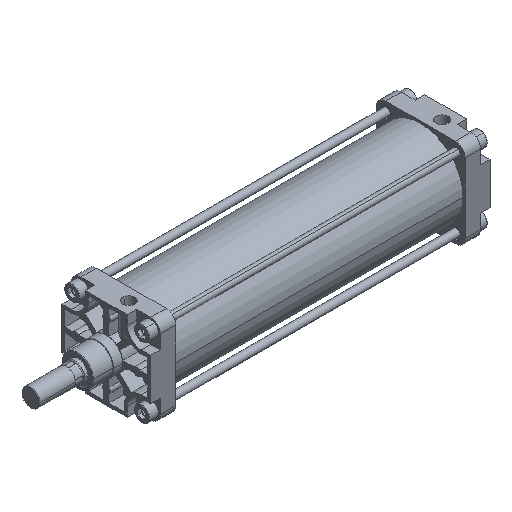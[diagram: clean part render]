
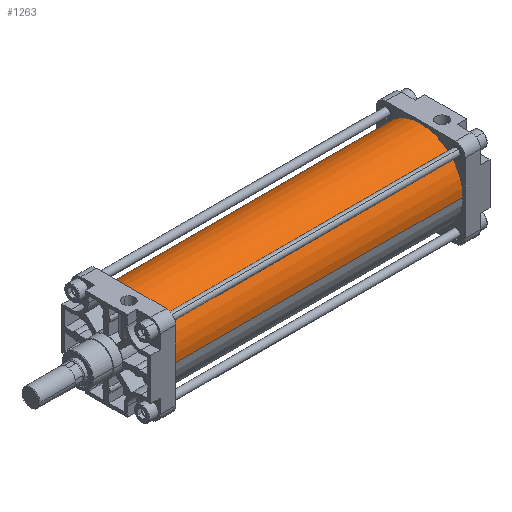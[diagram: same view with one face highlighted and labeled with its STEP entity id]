
A CAD part, isometric view. The second image highlights one B-rep face of the part: STEP entity #1263.
In plain terms, the highlighted cylindrical face has radius 85 mm (diameter 170 mm), a partial arc.
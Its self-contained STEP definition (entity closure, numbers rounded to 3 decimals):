
#853=CARTESIAN_POINT('Axis2P3D Location',(0.,0.,0.)) ;
#857=CARTESIAN_POINT('Vertex',(0.,85.,0.)) ;
#859=CARTESIAN_POINT('Vertex',(0.,-85.,0.)) ;
#1233=CARTESIAN_POINT('Axis2P3D Location',(290.,0.,0.)) ;
#1238=CARTESIAN_POINT('Line Origine',(290.,85.,0.)) ;
#1242=CARTESIAN_POINT('Vertex',(580.,85.,0.)) ;
#1245=CARTESIAN_POINT('Line Origine',(290.,-85.,0.)) ;
#1249=CARTESIAN_POINT('Vertex',(580.,-85.,0.)) ;
#1252=CARTESIAN_POINT('Axis2P3D Location',(580.,0.,0.)) ;
#854=DIRECTION('Axis2P3D Direction',(1.,0.,0.)) ;
#1234=DIRECTION('Axis2P3D Direction',(1.,0.,0.)) ;
#1235=DIRECTION('Axis2P3D XDirection',(0.,1.,0.)) ;
#1239=DIRECTION('Vector Direction',(1.,0.,0.)) ;
#1246=DIRECTION('Vector Direction',(1.,0.,0.)) ;
#1253=DIRECTION('Axis2P3D Direction',(1.,0.,0.)) ;
#855=AXIS2_PLACEMENT_3D('Circle Axis2P3D',#853,#854,$) ;
#1236=AXIS2_PLACEMENT_3D('Cylinder Axis2P3D',#1233,#1234,#1235) ;
#1254=AXIS2_PLACEMENT_3D('Circle Axis2P3D',#1252,#1253,$) ;
#1258=ORIENTED_EDGE('',*,*,#1244,.F.) ;
#1259=ORIENTED_EDGE('',*,*,#861,.T.) ;
#1260=ORIENTED_EDGE('',*,*,#1251,.T.) ;
#1261=ORIENTED_EDGE('',*,*,#1256,.F.) ;
#1240=VECTOR('Line Direction',#1239,1.) ;
#1247=VECTOR('Line Direction',#1246,1.) ;
#1263=ADVANCED_FACE('PartBody',(#1262),#1237,.T.) ;
#856=CIRCLE('generated circle',#855,85.) ;
#1255=CIRCLE('generated circle',#1254,85.) ;
#1237=CYLINDRICAL_SURFACE('generated cylinder',#1236,85.) ;
#861=EDGE_CURVE('',#858,#860,#856,.T.) ;
#1244=EDGE_CURVE('',#858,#1243,#1241,.T.) ;
#1251=EDGE_CURVE('',#860,#1250,#1248,.T.) ;
#1256=EDGE_CURVE('',#1243,#1250,#1255,.T.) ;
#1257=EDGE_LOOP('',(#1258,#1259,#1260,#1261)) ;
#1262=FACE_OUTER_BOUND('',#1257,.T.) ;
#1241=LINE('Line',#1238,#1240) ;
#1248=LINE('Line',#1245,#1247) ;
#858=VERTEX_POINT('',#857) ;
#860=VERTEX_POINT('',#859) ;
#1243=VERTEX_POINT('',#1242) ;
#1250=VERTEX_POINT('',#1249) ;
